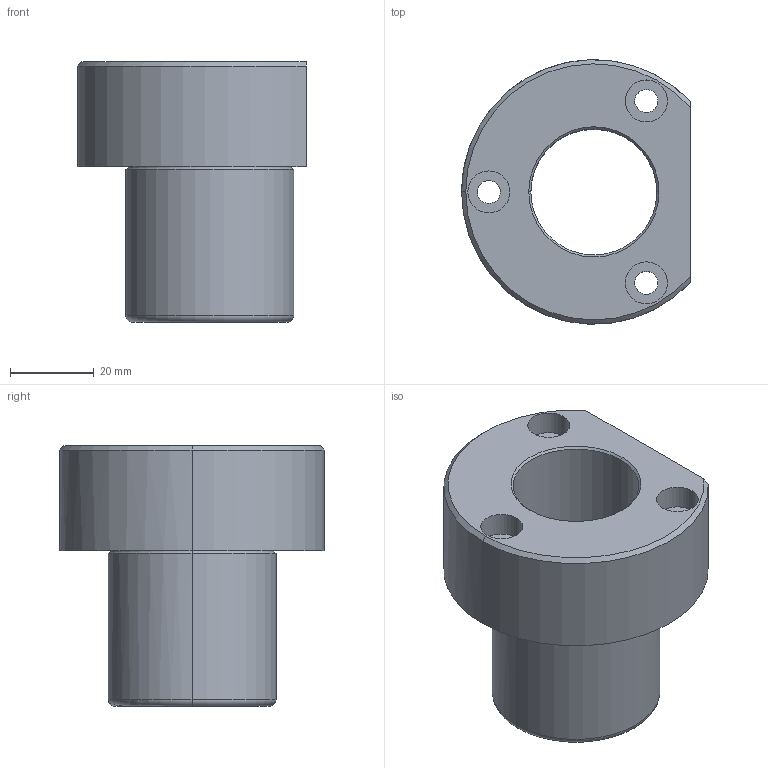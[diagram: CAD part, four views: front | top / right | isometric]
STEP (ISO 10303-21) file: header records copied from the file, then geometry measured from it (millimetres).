
FILE_DESCRIPTION(('CATIA V5 STEP Exchange'),'2;1');
FILE_NAME('C:\Users\Utente\Desktop\IO LAVORO\3D X SITO CF\X SITO\737\737-24.stp','2021-01-17T17:06:03+00:00',('none'),('none'),'CATIA Version 5 Release 20 GA (IN-10)','CATIA V5 STEP AP203','none');
FILE_SCHEMA(('CONFIG_CONTROL_DESIGN'));
Length unit declared in the file: millimetre
Products named in the file (1): 737-24
Bounding box: 54.5 x 62.98 x 62 mm (x, y, z)
Volume: 71325.9 mm3; surface area: 21014.4 mm2
Topology: 1 solids, 1 shells, 37 faces, 82 edges, 51 vertices
Faces by surface type: cylinder 18, plane 7, cone 6, torus 6
Entity records: 1247 total; most frequent: CARTESIAN_POINT 402, ORIENTED_EDGE 164, DIRECTION 141, EDGE_CURVE 82, AXIS2_PLACEMENT_3D 79, VERTEX_POINT 51, EDGE_LOOP 49, CIRCLE 41
